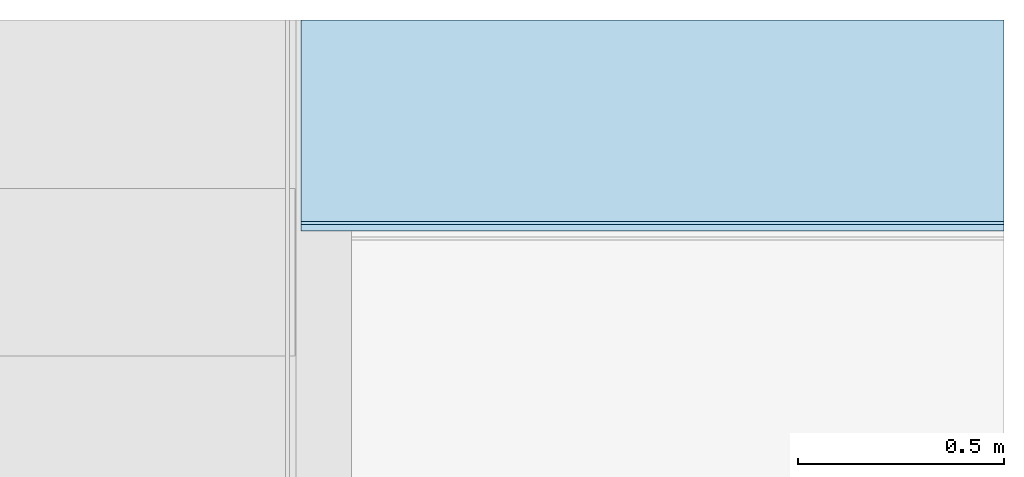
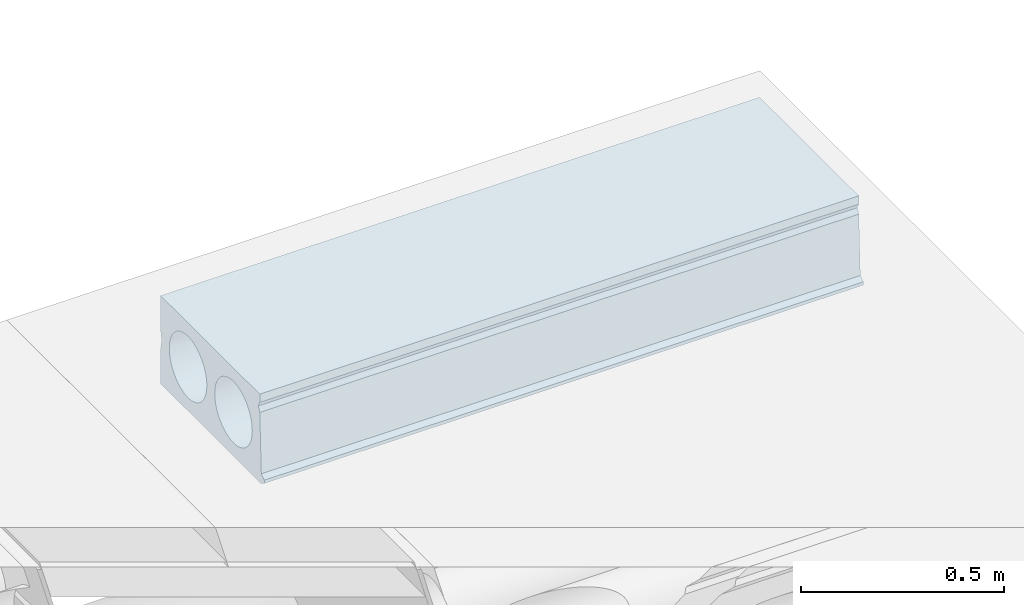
# One storey, part 21 of 21: 1 slab.
"""IFC2X3 building model written with IfcOpenShell, lengths in millimetres."""

from ifc_helpers import new_model, entity, si_unit, converted_unit, derived_unit, direction, frame, origin_with_axes, place, context, subcontext, project, spatial, faceted_brep, type_object, element, save


model = new_model("IFC2X3")

# Units and contexts
model_context = context("Model", 3, precision=0.01, world=frame((0.0, 4.29681676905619e-09, 0.0)), true_north=direction((4.01073788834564e-13, 1.0)))
plan_context = context("Plan", 3, precision=0.01, world=frame((0.0, 4.29681676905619e-09, 0.0)), true_north=direction((4.01073788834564e-13, 1.0)))
body_context = subcontext(model_context, "Body", "Model", "MODEL_VIEW")
ifc_project = project(units=[converted_unit("PLANEANGLEUNIT", "DEGREE", entity("IfcPositiveLengthMeasure", 0.0174532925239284), si_unit("PLANEANGLEUNIT", "RADIAN"), dimensions=[0, 0, 0, 0, 0, 0, 0]), si_unit("AREAUNIT", "SQUARE_METRE"), si_unit("LENGTHUNIT", "METRE", prefix="MILLI"), si_unit("MASSUNIT", "GRAM", prefix="KILO"), si_unit("POWERUNIT", "WATT"), si_unit("PRESSUREUNIT", "PASCAL", prefix="KILO"), si_unit("FORCEUNIT", "NEWTON", prefix="KILO"), si_unit("ELECTRICVOLTAGEUNIT", "VOLT"), si_unit("ELECTRICCURRENTUNIT", "AMPERE"), si_unit("THERMODYNAMICTEMPERATUREUNIT", "DEGREE_CELSIUS"), si_unit("TIMEUNIT", "SECOND"), si_unit("VOLUMEUNIT", "CUBIC_METRE"), derived_unit("LINEARVELOCITYUNIT", [(si_unit("LENGTHUNIT", "METRE"), 1), (si_unit("TIMEUNIT", "SECOND"), -1)]), derived_unit("VOLUMETRICFLOWRATEUNIT", [(si_unit("VOLUMEUNIT", "CUBIC_METRE"), 1), (si_unit("TIMEUNIT", "SECOND"), -1)]), derived_unit("THERMALTRANSMITTANCEUNIT", [(si_unit("POWERUNIT", "WATT"), 1), (si_unit("THERMODYNAMICTEMPERATUREUNIT", "KELVIN"), -1), (si_unit("AREAUNIT", "SQUARE_METRE"), -1)]), derived_unit("SOUNDPRESSUREUNIT", [(si_unit("PRESSUREUNIT", "PASCAL"), 1)])], contexts=[model_context, plan_context])

# Site, building, storey
site_placement = place(None, frame((0.0, -4.29681676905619e-09, 0.0), z_axis=(0.0, 0.0, 1.0), x_axis=(1.0, 0.0, 0.0)))
site = spatial("IfcSite", under=ifc_project, at=site_placement, Name="Gardermoen", CompositionType="ELEMENT")
building_placement = place(site_placement, frame((0.0, 4.29681676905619e-09, 0.0), z_axis=(0.0, 0.0, 1.0), x_axis=(1.0, 0.0, 0.0)))
building = spatial("IfcBuilding", under=site, at=building_placement, Name="TS", CompositionType="ELEMENT")
storey_placement = place(building_placement, origin_with_axes())
storey = spatial("IfcBuildingStorey", under=building, at=storey_placement, Name="F", CompositionType="ELEMENT", Elevation=0.0)

# Slab
slab_type = type_object("IfcSlabType", Name="HD265", PredefinedType="NOTDEFINED")
slab_placement = place(storey_placement, frame((727438.0, 446299.99967225, 210662.5), z_axis=(0.0, 0.0, 1.0), x_axis=(1.0, 0.0, 0.0)))
element("IfcSlab", 1, at=slab_placement, inside=storey, type_object=slab_type, Name="HULLDEKKE", ObjectType="HD265", PredefinedType="FLOOR", context=body_context, shape_type="Brep", body=[
    faceted_brep([(0.0, -88.5752084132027, 132.5), (1704.58978646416, -88.5752084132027, 132.5), (1704.58978646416, -577.5, 132.5), (0.0, -577.5, 132.5), (1704.58978646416, -577.5, 107.5), (0.0, -577.5, 107.5), (1704.58978646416, -570.0, 92.5), (0.0, -570.0, 92.5), (1704.58978646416, -577.5, 77.5), (0.0, -577.5, 77.5), (1704.58978646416, -585.0, -102.5), (0.0, -585.0, -102.5), (1704.58978646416, -600.0, -112.5), (0.0, -600.0, -112.5), (1704.58978646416, -600.0, -122.5), (0.0, -600.0, -122.5), (1704.58978646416, -583.380004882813, -132.5), (0.0, -583.380004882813, -132.5), (1704.58978646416, -88.5752084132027, -132.5), (0.0, -88.5752084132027, -132.5), (1704.58978646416, -448.000000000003, -92.4999999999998), (1704.58978646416, -455.638589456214, -92.184065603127), (0.0, -455.638589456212, -92.1840656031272), (0.0, -448.0, -92.5), (1704.58978646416, -440.361410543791, -92.1840656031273), (0.0, -440.361410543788, -92.1840656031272), (1704.58978646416, -432.775000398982, -91.2384205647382), (0.0, -432.775000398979, -91.2384205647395), (1704.58978646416, -425.292592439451, -89.6695245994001), (0.0, -425.292592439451, -89.6695245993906), (1704.58978646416, -417.965299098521, -87.4880948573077), (0.0, -417.96529909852, -87.4880948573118), (1704.58978646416, -410.843173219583, -84.7090327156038), (0.0, -410.84317321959, -84.7090327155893), (1704.58978646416, -403.97486614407, -81.3513219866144), (0.0, -403.974866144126, -81.3513219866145), (1704.58978646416, -397.40729537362, -77.4378992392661), (0.0, -397.407295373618, -77.437899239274), (1704.58978646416, -391.185324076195, -72.9954971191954), (0.0, -391.185324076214, -72.9954971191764), (1704.58978646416, -385.351454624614, -68.0544617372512), (0.0, -385.351454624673, -68.0544617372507), (1704.58978646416, -379.94553826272, -62.6485453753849), (0.0, -379.94553826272, -62.6485453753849), (1704.58978646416, -375.004502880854, -56.8146759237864), (0.0, -375.004502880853, -56.8146759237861), (1704.58978646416, -370.562100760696, -50.5927046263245), (0.0, -370.562100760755, -50.5927046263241), (1704.58978646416, -366.64867801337, -44.0251338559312), (0.0, -366.648678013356, -44.0251338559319), (1704.58978646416, -363.290967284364, -37.15682678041), (0.0, -363.290967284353, -37.1568267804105), (1704.58978646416, -360.511905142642, -30.0347009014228), (0.0, -360.511905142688, -30.0347009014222), (1704.58978646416, -358.330475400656, -22.7074075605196), (0.0, -358.330475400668, -22.7074075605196), (1704.58978646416, -356.761579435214, -15.2249996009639), (0.0, -356.761579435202, -15.2249996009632), (1704.58978646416, -355.815934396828, -7.63858945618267), (0.0, -355.815934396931, -7.63858945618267), (1704.58978646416, -355.499999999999, 1.13686837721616e-13), (0.0, -355.5, 0.0), (1704.58978646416, -355.815934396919, 7.6385894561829), (0.0, -355.815934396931, 7.63858945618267), (1704.58978646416, -356.761579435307, 15.2249996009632), (0.0, -356.761579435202, 15.2249996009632), (1704.58978646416, -358.330475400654, 22.70740756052), (0.0, -358.330475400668, 22.7074075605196), (1704.58978646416, -360.511905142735, 30.0347009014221), (0.0, -360.511905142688, 30.0347009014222), (1704.58978646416, -363.290967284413, 37.1568267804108), (0.0, -363.290967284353, 37.1568267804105), (1704.58978646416, -366.648678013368, 44.0251338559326), (0.0, -366.648678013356, 44.0251338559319), (1704.58978646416, -370.562100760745, 50.5927046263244), (0.0, -370.562100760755, 50.5927046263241), (1704.58978646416, -375.0045028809, 56.8146759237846), (0.0, -375.004502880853, 56.8146759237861), (1704.58978646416, -379.945538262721, 62.648545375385), (0.0, -379.94553826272, 62.6485453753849), (1704.58978646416, -385.351454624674, 68.0544617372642), (0.0, -385.351454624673, 68.0544617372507), (1704.58978646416, -391.185324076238, 72.9954971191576), (0.0, -391.185324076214, 72.9954971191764), (1704.58978646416, -397.407295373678, 77.437899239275), (0.0, -397.407295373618, 77.437899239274), (1704.58978646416, -403.974866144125, 81.3513219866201), (0.0, -403.974866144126, 81.3513219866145), (1704.58978646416, -410.843173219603, 84.709032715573), (0.0, -410.84317321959, 84.7090327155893), (1704.58978646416, -417.965299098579, 87.4880948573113), (0.0, -417.96529909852, 87.4880948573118), (1704.58978646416, -425.292592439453, 89.6695245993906), (0.0, -425.292592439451, 89.6695245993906), (1704.58978646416, -432.775000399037, 91.2384205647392), (0.0, -432.775000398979, 91.2384205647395), (1704.58978646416, -440.361410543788, 92.1840656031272), (0.0, -440.361410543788, 92.1840656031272), (1704.58978646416, -448.0, 92.5000000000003), (0.0, -448.0, 92.5), (1704.58978646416, -455.638589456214, 92.1840656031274), (0.0, -455.638589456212, 92.1840656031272), (1704.58978646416, -463.224999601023, 91.2384205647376), (0.0, -463.224999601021, 91.2384205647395), (1704.58978646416, -470.707407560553, 89.6695245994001), (0.0, -470.707407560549, 89.6695245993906), (1704.58978646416, -478.034700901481, 87.488094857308), (0.0, -478.03470090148, 87.4880948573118), (1704.58978646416, -485.156826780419, 84.7090327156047), (0.0, -485.15682678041, 84.7090327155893), (1704.58978646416, -492.025133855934, 81.3513219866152), (0.0, -492.025133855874, 81.3513219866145), (1704.58978646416, -498.592704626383, 77.437899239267), (0.0, -498.592704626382, 77.437899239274), (1704.58978646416, -504.814675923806, 72.9954971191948), (0.0, -504.814675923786, 72.9954971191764), (1704.58978646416, -510.648545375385, 68.0544617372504), (0.0, -510.648545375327, 68.0544617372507), (1704.58978646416, -516.054461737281, 62.6485453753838), (0.0, -516.05446173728, 62.6485453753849), (1704.58978646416, -520.995497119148, 56.814675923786), (0.0, -520.995497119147, 56.8146759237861), (1704.58978646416, -525.437899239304, 50.5927046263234), (0.0, -525.437899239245, 50.5927046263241), (1704.58978646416, -529.351321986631, 44.025133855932), (0.0, -529.351321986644, 44.0251338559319), (1704.58978646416, -532.709032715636, 37.1568267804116), (0.0, -532.709032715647, 37.1568267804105), (1704.58978646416, -535.48809485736, 30.0347009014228), (0.0, -535.488094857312, 30.0347009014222), (1704.58978646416, -537.669524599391, 22.707407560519), (0.0, -537.669524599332, 22.7074075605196), (1704.58978646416, -539.238420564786, 15.2249996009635), (0.0, -539.238420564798, 15.2249996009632), (1704.58978646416, -540.184065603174, 7.63858945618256), (0.0, -540.184065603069, 7.63858945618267), (1704.58978646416, -540.500000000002, 1.13686837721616e-13), (0.0, -540.5, 0.0), (1704.58978646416, -540.184065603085, -7.63858945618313), (0.0, -540.184065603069, -7.63858945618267), (1704.58978646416, -539.238420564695, -15.2249996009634), (0.0, -539.238420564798, -15.2249996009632), (1704.58978646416, -537.669524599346, -22.7074075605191), (0.0, -537.669524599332, -22.7074075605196), (1704.58978646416, -535.488094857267, -30.0347009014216), (0.0, -535.488094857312, -30.0347009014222), (1704.58978646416, -532.709032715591, -37.1568267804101), (0.0, -532.709032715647, -37.1568267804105), (1704.58978646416, -529.351321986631, -44.0251338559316), (0.0, -529.351321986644, -44.0251338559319), (1704.58978646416, -525.437899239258, -50.5927046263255), (0.0, -525.437899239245, -50.5927046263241), (1704.58978646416, -520.995497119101, -56.8146759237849), (0.0, -520.995497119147, -56.8146759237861), (1704.58978646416, -516.054461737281, -62.6485453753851), (0.0, -516.05446173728, -62.6485453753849), (1704.58978646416, -510.648545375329, -68.0544617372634), (0.0, -510.648545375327, -68.0544617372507), (1704.58978646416, -504.81467592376, -72.9954971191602), (0.0, -504.814675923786, -72.9954971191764), (1704.58978646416, -498.592704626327, -77.4378992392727), (0.0, -498.592704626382, -77.437899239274), (1704.58978646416, -492.025133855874, -81.3513219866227), (0.0, -492.025133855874, -81.3513219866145), (1704.58978646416, -485.156826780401, -84.7090327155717), (0.0, -485.15682678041, -84.7090327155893), (1704.58978646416, -478.034700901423, -87.4880948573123), (0.0, -478.03470090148, -87.4880948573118), (1704.58978646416, -470.707407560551, -89.6695245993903), (0.0, -470.707407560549, -89.6695245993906), (1704.58978646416, -463.224999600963, -91.2384205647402), (0.0, -463.224999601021, -91.2384205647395), (1704.58978646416, -224.000000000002, -92.4999999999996), (1704.58978646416, -231.638589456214, -92.1840656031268), (0.0, -231.638589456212, -92.1840656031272), (0.0, -224.0, -92.5), (1704.58978646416, -216.361410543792, -92.184065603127), (0.0, -216.361410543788, -92.1840656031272), (1704.58978646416, -208.775000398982, -91.238420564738), (0.0, -208.775000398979, -91.2384205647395), (1704.58978646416, -201.29259243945, -89.6695245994), (0.0, -201.292592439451, -89.6695245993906), (1704.58978646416, -193.965299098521, -87.4880948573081), (0.0, -193.96529909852, -87.4880948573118), (1704.58978646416, -186.843173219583, -84.7090327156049), (0.0, -186.84317321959, -84.7090327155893), (1704.58978646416, -179.974866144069, -81.3513219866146), (0.0, -179.974866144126, -81.3513219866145), (1704.58978646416, -173.40729537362, -77.4378992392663), (0.0, -173.407295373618, -77.437899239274), (1704.58978646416, -167.185324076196, -72.9954971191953), (0.0, -167.185324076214, -72.9954971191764), (1704.58978646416, -161.351454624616, -68.0544617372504), (0.0, -161.351454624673, -68.0544617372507), (1704.58978646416, -155.94553826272, -62.6485453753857), (0.0, -155.94553826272, -62.6485453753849), (1704.58978646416, -151.004502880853, -56.8146759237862), (0.0, -151.004502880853, -56.8146759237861), (1704.58978646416, -146.562100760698, -50.5927046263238), (0.0, -146.562100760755, -50.5927046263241), (1704.58978646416, -142.64867801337, -44.0251338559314), (0.0, -142.648678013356, -44.0251338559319), (1704.58978646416, -139.290967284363, -37.1568267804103), (0.0, -139.290967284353, -37.1568267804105), (1704.58978646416, -136.511905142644, -30.0347009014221), (0.0, -136.511905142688, -30.0347009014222), (1704.58978646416, -134.330475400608, -22.7074075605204), (0.0, -134.330475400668, -22.7074075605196), (1704.58978646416, -132.761579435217, -15.2249996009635), (0.0, -132.761579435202, -15.2249996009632), (1704.58978646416, -131.815934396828, -7.63858945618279), (0.0, -131.815934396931, -7.63858945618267), (1704.58978646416, -131.500000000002, 5.6843418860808e-14), (0.0, -131.5, 0.0), (1704.58978646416, -131.81593439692, 7.6385894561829), (0.0, -131.815934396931, 7.63858945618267), (1704.58978646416, -132.761579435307, 15.2249996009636), (0.0, -132.761579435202, 15.2249996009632), (1704.58978646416, -134.330475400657, 22.7074075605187), (0.0, -134.330475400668, 22.7074075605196), (1704.58978646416, -136.511905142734, 30.0347009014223), (0.0, -136.511905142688, 30.0347009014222), (1704.58978646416, -139.290967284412, 37.1568267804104), (0.0, -139.290967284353, 37.1568267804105), (1704.58978646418, -142.648678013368, 44.0251338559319), (0.0, -142.648678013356, 44.0251338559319), (1704.58978646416, -146.562100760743, 50.5927046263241), (0.0, -146.562100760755, 50.5927046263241), (1704.58978646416, -151.004502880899, 56.8146759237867), (0.0, -151.004502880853, 56.8146759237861), (1704.58978646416, -155.94553826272, 62.6485453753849), (0.0, -155.94553826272, 62.6485453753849), (1704.58978646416, -161.351454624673, 68.0544617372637), (0.0, -161.351454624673, 68.0544617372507), (1704.58978646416, -167.185324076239, 72.9954971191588), (0.0, -167.185324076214, 72.9954971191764), (1704.58978646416, -173.40729537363, 77.437899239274), (0.0, -173.407295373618, 77.437899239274), (1704.58978646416, -179.974866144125, 81.3513219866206), (0.0, -179.974866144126, 81.3513219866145), (1704.58978646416, -186.843173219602, 84.7090327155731), (0.0, -186.84317321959, 84.7090327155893), (1704.58978646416, -193.965299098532, 87.4880948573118), (0.0, -193.96529909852, 87.4880948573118), (1704.58978646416, -201.292592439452, 89.6695245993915), (0.0, -201.292592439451, 89.6695245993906), (1704.58978646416, -208.775000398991, 91.2384205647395), (0.0, -208.775000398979, 91.2384205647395), (1704.58978646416, -216.361410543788, 92.1840656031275), (0.0, -216.361410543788, 92.1840656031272), (1704.58978646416, -224.000000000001, 92.5), (0.0, -224.0, 92.5), (1704.58978646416, -231.638589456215, 92.1840656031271), (0.0, -231.638589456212, 92.1840656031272), (1704.58978646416, -239.224999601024, 91.2384205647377), (0.0, -239.224999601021, 91.2384205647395), (1704.58978646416, -246.707407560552, 89.6695245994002), (0.0, -246.707407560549, 89.6695245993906), (1704.58978646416, -254.034700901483, 87.4880948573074), (0.0, -254.03470090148, 87.4880948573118), (1704.58978646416, -261.156826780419, 84.7090327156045), (0.0, -261.15682678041, 84.7090327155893), (1704.58978646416, -268.025133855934, 81.3513219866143), (0.0, -268.025133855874, 81.3513219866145), (1704.58978646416, -274.592704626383, 77.4378992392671), (0.0, -274.592704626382, 77.437899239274), (1704.58978646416, -280.814675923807, 72.9954971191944), (0.0, -280.814675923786, 72.9954971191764), (1704.58978646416, -286.648545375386, 68.0544617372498), (0.0, -286.648545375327, 68.0544617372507), (1704.58978646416, -292.05446173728, 62.6485453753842), (0.0, -292.05446173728, 62.6485453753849), (1704.58978646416, -296.995497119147, 56.8146759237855), (0.0, -296.995497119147, 56.8146759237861), (1704.58978646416, -301.437899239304, 50.592704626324), (0.0, -301.437899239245, 50.5927046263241), (1704.58978646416, -305.351321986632, 44.0251338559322), (0.0, -305.351321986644, 44.0251338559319), (1704.58978646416, -308.709032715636, 37.1568267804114), (0.0, -308.709032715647, 37.1568267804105), (1704.58978646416, -311.48809485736, 30.0347009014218), (0.0, -311.488094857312, 30.0347009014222), (1704.58978646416, -313.669524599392, 22.7074075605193), (0.0, -313.669524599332, 22.7074075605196), (1704.58978646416, -315.238420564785, 15.2249996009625), (0.0, -315.238420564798, 15.2249996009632), (1704.58978646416, -316.184065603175, 7.6385894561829), (0.0, -316.184065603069, 7.63858945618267), (1704.58978646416, -316.499999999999, -3.41060513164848e-13), (0.0, -316.5, 0.0), (1704.58978646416, -316.184065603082, -7.63858945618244), (0.0, -316.184065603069, -7.63858945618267), (1704.58978646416, -315.238420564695, -15.2249996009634), (0.0, -315.238420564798, -15.2249996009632), (1704.58978646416, -313.669524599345, -22.7074075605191), (0.0, -313.669524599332, -22.7074075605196), (1704.58978646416, -311.488094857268, -30.034700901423), (0.0, -311.488094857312, -30.0347009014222), (1704.58978646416, -308.709032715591, -37.1568267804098), (0.0, -308.709032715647, -37.1568267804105), (1704.58978646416, -305.35132198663, -44.0251338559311), (0.0, -305.351321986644, -44.0251338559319), (1704.58978646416, -301.437899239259, -50.5927046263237), (0.0, -301.437899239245, -50.5927046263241), (1704.58978646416, -296.995497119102, -56.8146759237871), (0.0, -296.995497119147, -56.8146759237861), (1704.58978646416, -292.054461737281, -62.6485453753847), (0.0, -292.05446173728, -62.6485453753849), (1704.58978646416, -286.648545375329, -68.0544617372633), (0.0, -286.648545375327, -68.0544617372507), (1704.58978646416, -280.814675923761, -72.9954971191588), (0.0, -280.814675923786, -72.9954971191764), (1704.58978646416, -274.592704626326, -77.4378992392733), (0.0, -274.592704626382, -77.437899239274), (1704.58978646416, -268.025133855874, -81.3513219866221), (0.0, -268.025133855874, -81.3513219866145), (1704.58978646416, -261.156826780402, -84.709032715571), (0.0, -261.15682678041, -84.7090327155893), (1704.58978646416, -254.034700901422, -87.4880948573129), (0.0, -254.03470090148, -87.4880948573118), (1704.58978646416, -246.707407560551, -89.6695245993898), (0.0, -246.707407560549, -89.6695245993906), (1704.58978646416, -239.224999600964, -91.23842056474), (0.0, -239.224999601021, -91.2384205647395), (1704.58978646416, -89.6695245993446, 22.7074075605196), (1704.58978646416, -88.5752084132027, 26.8889473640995), (0.0, -88.5752084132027, 26.3831508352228), (0.0, -89.6695245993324, 22.7074075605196), (1704.58978646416, -91.2384205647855, 15.2249996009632), (0.0, -91.2384205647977, 15.2249996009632), (1704.58978646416, -92.1840656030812, 7.63858945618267), (0.0, -92.184065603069, 7.63858945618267), (1704.58978646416, -92.5, 0.0), (0.0, -92.5, 0.0), (1704.58978646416, -92.1840656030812, -7.63858945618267), (0.0, -92.184065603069, -7.63858945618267), (1704.58978646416, -91.2384205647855, -15.2249996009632), (0.0, -91.2384205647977, -15.2249996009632), (1704.58978646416, -89.6695245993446, -22.7074075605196), (0.0, -89.6695245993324, -22.7074075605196), (0.0, -88.5752084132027, -26.3831508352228), (1704.58978646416, -88.5752084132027, -26.8889473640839), (1704.58978646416, -88.5752084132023, 26.3831508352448), (1704.58978646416, -88.5752084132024, -26.3831508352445)], [[[0, 1, 2, 3]], [[2, 4, 5, 3]], [[4, 6, 7, 5]], [[6, 8, 9, 7]], [[8, 10, 11, 9]], [[10, 12, 13, 11]], [[12, 14, 15, 13]], [[14, 16, 17, 15]], [[16, 18, 19, 17]], [[20, 21, 22, 23]], [[24, 20, 23, 25]], [[26, 24, 25, 27]], [[28, 26, 27, 29]], [[30, 28, 29, 31]], [[32, 30, 31, 33]], [[34, 32, 33, 35]], [[36, 34, 35, 37]], [[38, 36, 37, 39]], [[40, 38, 39, 41]], [[42, 40, 41, 43]], [[44, 42, 43, 45]], [[46, 44, 45, 47]], [[48, 46, 47, 49]], [[50, 48, 49, 51]], [[52, 50, 51, 53]], [[54, 52, 53, 55]], [[56, 54, 55, 57]], [[58, 56, 57, 59]], [[60, 58, 59, 61]], [[62, 60, 61, 63]], [[64, 62, 63, 65]], [[66, 64, 65, 67]], [[68, 66, 67, 69]], [[70, 68, 69, 71]], [[72, 70, 71, 73]], [[74, 72, 73, 75]], [[76, 74, 75, 77]], [[78, 76, 77, 79]], [[80, 78, 79, 81]], [[82, 80, 81, 83]], [[84, 82, 83, 85]], [[86, 84, 85, 87]], [[88, 86, 87, 89]], [[90, 88, 89, 91]], [[92, 90, 91, 93]], [[94, 92, 93, 95]], [[96, 94, 95, 97]], [[98, 96, 97, 99]], [[100, 98, 99, 101]], [[102, 100, 101, 103]], [[104, 102, 103, 105]], [[106, 104, 105, 107]], [[108, 106, 107, 109]], [[110, 108, 109, 111]], [[112, 110, 111, 113]], [[114, 112, 113, 115]], [[116, 114, 115, 117]], [[118, 116, 117, 119]], [[120, 118, 119, 121]], [[122, 120, 121, 123]], [[124, 122, 123, 125]], [[126, 124, 125, 127]], [[128, 126, 127, 129]], [[130, 128, 129, 131]], [[132, 130, 131, 133]], [[134, 132, 133, 135]], [[136, 134, 135, 137]], [[138, 136, 137, 139]], [[140, 138, 139, 141]], [[142, 140, 141, 143]], [[144, 142, 143, 145]], [[146, 144, 145, 147]], [[148, 146, 147, 149]], [[150, 148, 149, 151]], [[152, 150, 151, 153]], [[154, 152, 153, 155]], [[156, 154, 155, 157]], [[158, 156, 157, 159]], [[160, 158, 159, 161]], [[162, 160, 161, 163]], [[164, 162, 163, 165]], [[166, 164, 165, 167]], [[168, 166, 167, 169]], [[170, 168, 169, 171]], [[21, 170, 171, 22]], [[172, 173, 174, 175]], [[176, 172, 175, 177]], [[178, 176, 177, 179]], [[180, 178, 179, 181]], [[182, 180, 181, 183]], [[184, 182, 183, 185]], [[186, 184, 185, 187]], [[188, 186, 187, 189]], [[190, 188, 189, 191]], [[192, 190, 191, 193]], [[194, 192, 193, 195]], [[196, 194, 195, 197]], [[198, 196, 197, 199]], [[200, 198, 199, 201]], [[202, 200, 201, 203]], [[204, 202, 203, 205]], [[206, 204, 205, 207]], [[208, 206, 207, 209]], [[210, 208, 209, 211]], [[212, 210, 211, 213]], [[214, 212, 213, 215]], [[216, 214, 215, 217]], [[218, 216, 217, 219]], [[220, 218, 219, 221]], [[222, 220, 221, 223]], [[224, 222, 223, 225]], [[226, 224, 225, 227]], [[228, 226, 227, 229]], [[230, 228, 229, 231]], [[232, 230, 231, 233]], [[234, 232, 233, 235]], [[236, 234, 235, 237]], [[238, 236, 237, 239]], [[240, 238, 239, 241]], [[242, 240, 241, 243]], [[244, 242, 243, 245]], [[246, 244, 245, 247]], [[248, 246, 247, 249]], [[250, 248, 249, 251]], [[252, 250, 251, 253]], [[254, 252, 253, 255]], [[256, 254, 255, 257]], [[258, 256, 257, 259]], [[260, 258, 259, 261]], [[262, 260, 261, 263]], [[264, 262, 263, 265]], [[266, 264, 265, 267]], [[268, 266, 267, 269]], [[270, 268, 269, 271]], [[272, 270, 271, 273]], [[274, 272, 273, 275]], [[276, 274, 275, 277]], [[278, 276, 277, 279]], [[280, 278, 279, 281]], [[282, 280, 281, 283]], [[284, 282, 283, 285]], [[286, 284, 285, 287]], [[288, 286, 287, 289]], [[290, 288, 289, 291]], [[292, 290, 291, 293]], [[294, 292, 293, 295]], [[296, 294, 295, 297]], [[298, 296, 297, 299]], [[300, 298, 299, 301]], [[302, 300, 301, 303]], [[304, 302, 303, 305]], [[306, 304, 305, 307]], [[308, 306, 307, 309]], [[310, 308, 309, 311]], [[312, 310, 311, 313]], [[314, 312, 313, 315]], [[316, 314, 315, 317]], [[318, 316, 317, 319]], [[320, 318, 319, 321]], [[322, 320, 321, 323]], [[173, 322, 323, 174]], [[324, 325, 326, 327]], [[328, 324, 327, 329]], [[330, 328, 329, 331]], [[332, 330, 331, 333]], [[334, 332, 333, 335]], [[336, 334, 335, 337]], [[338, 336, 337, 339]], [[340, 341, 338, 339]], [[19, 340, 339, 337, 335, 333, 331, 329, 327, 326, 0, 3, 5, 7, 9, 11, 13, 15, 17], [175, 174, 323, 321, 319, 317, 315, 313, 311, 309, 307, 305, 303, 301, 299, 297, 295, 293, 291, 289, 287, 285, 283, 281, 279, 277, 275, 273, 271, 269, 267, 265, 263, 261, 259, 257, 255, 253, 251, 249, 247, 245, 243, 241, 239, 237, 235, 233, 231, 229, 227, 225, 223, 221, 219, 217, 215, 213, 211, 209, 207, 205, 203, 201, 199, 197, 195, 193, 191, 189, 187, 185, 183, 181, 179, 177], [23, 22, 171, 169, 167, 165, 163, 161, 159, 157, 155, 153, 151, 149, 147, 145, 143, 141, 139, 137, 135, 133, 131, 129, 127, 125, 123, 121, 119, 117, 115, 113, 111, 109, 107, 105, 103, 101, 99, 97, 95, 93, 91, 89, 87, 85, 83, 81, 79, 77, 75, 73, 71, 69, 67, 65, 63, 61, 59, 57, 55, 53, 51, 49, 47, 45, 43, 41, 39, 37, 35, 33, 31, 29, 27, 25]], [[18, 16, 14, 12, 10, 8, 6, 4, 2, 1, 342, 324, 328, 330, 332, 334, 336, 338, 343]], [[1, 0, 326, 342]], [[343, 340, 19, 18]]], orient=[[False], [False], [False], [False], [False], [False], [False], [False], [False], [False], [False], [False], [False], [False], [False], [False], [False], [False], [False], [False], [False], [False], [False], [False], [False], [False], [False], [False], [False], [False], [False], [False], [False], [False], [False], [False], [False], [False], [False], [False], [False], [False], [False], [False], [False], [False], [False], [False], [False], [False], [False], [False], [False], [False], [False], [False], [False], [False], [False], [False], [False], [False], [False], [False], [False], [False], [False], [False], [False], [False], [False], [False], [False], [False], [False], [False], [False], [False], [False], [False], [False], [False], [False], [False], [False], [False], [False], [False], [False], [False], [False], [False], [False], [False], [False], [False], [False], [False], [False], [False], [False], [False], [False], [False], [False], [False], [False], [False], [False], [False], [False], [False], [False], [False], [False], [False], [False], [False], [False], [False], [False], [False], [False], [False], [False], [False], [False], [False], [False], [False], [False], [False], [False], [False], [False], [False], [False], [False], [False], [False], [False], [False], [False], [False], [False], [False], [False], [False], [False], [False], [False], [False], [False], [False], [False], [False], [False], [False], [False], [False], [False], [False], [False], [False], [False], [False], [False], [False], [False], [False, False, False], [False], [False], [False]]),
])

save(model, "model.ifc")
